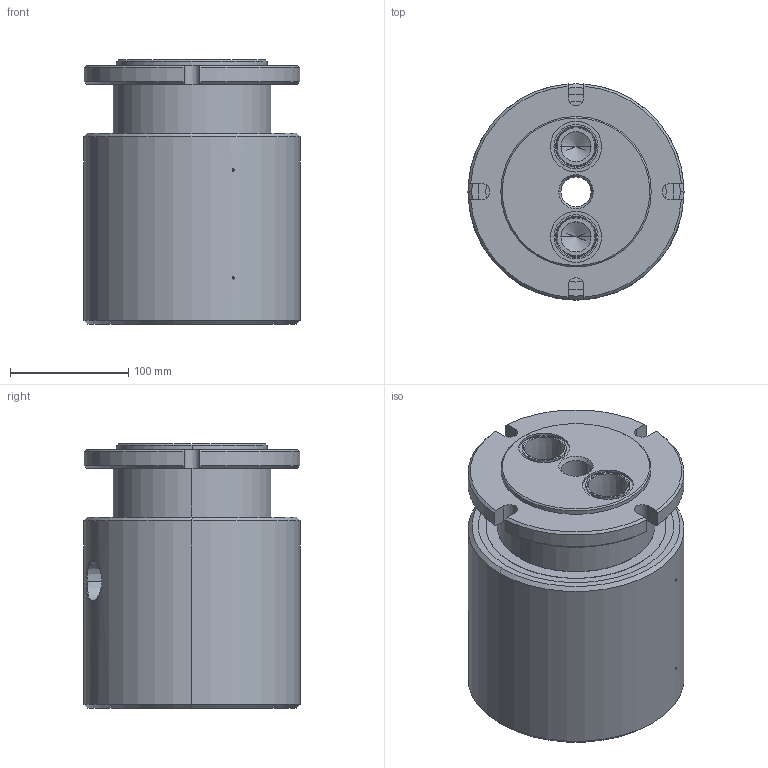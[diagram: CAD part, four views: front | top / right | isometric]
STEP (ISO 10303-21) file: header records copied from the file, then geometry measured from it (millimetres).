
FILE_DESCRIPTION (( 'STEP AP214' ), '1' );
FILE_NAME ('GP(M)-621.STEP', '2013-02-06T13:44:16', ( '' ), ( '' ), 'SwSTEP 2.0', 'SolidWorks 2011', '' );
FILE_SCHEMA (( 'AUTOMOTIVE_DESIGN' ));
Length unit declared in the file: inch
Products named in the file (1): GP(M)-621
Bounding box: 182.55 x 182.55 x 223.14 mm (x, y, z)
Volume: 4924525.7 mm3; surface area: 238644.6 mm2
Topology: 1 solids, 1 shells, 177 faces, 420 edges, 253 vertices
Faces by surface type: cylinder 79, cone 56, plane 36, bspline 4, torus 2
Entity records: 6099 total; most frequent: CARTESIAN_POINT 1663, DIRECTION 900, ORIENTED_EDGE 788, EDGE_CURVE 394, AXIS2_PLACEMENT_3D 368, VERTEX_POINT 253, EDGE_LOOP 213, CIRCLE 194
